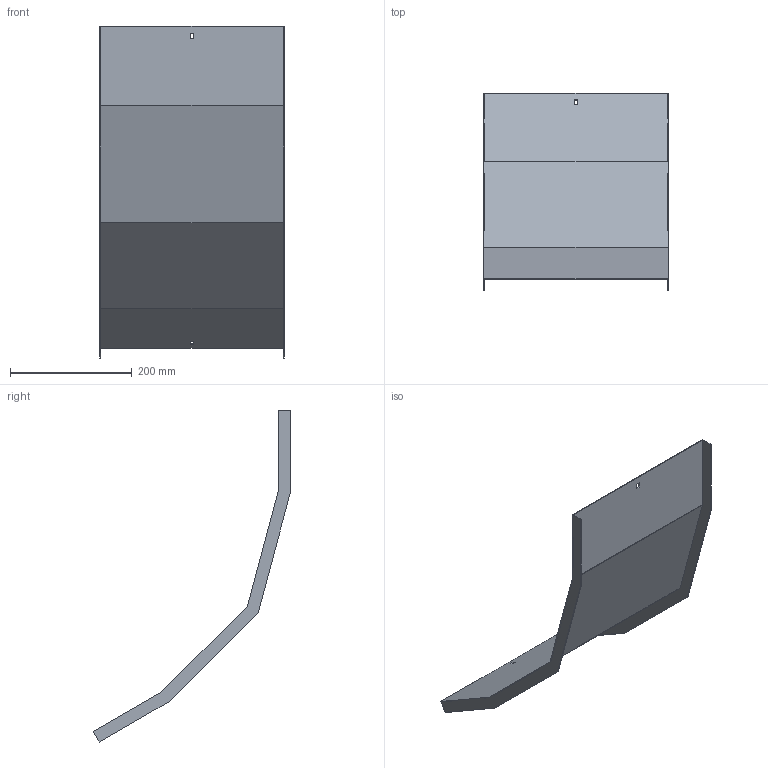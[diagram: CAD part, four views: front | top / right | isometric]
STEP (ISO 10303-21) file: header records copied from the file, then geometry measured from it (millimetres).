
FILE_DESCRIPTION (( 'STEP AP214' ), '1' );
FILE_NAME ('40N5R300_H150.step', '2025-02-21T14:29:04', ( '' ), ( '' ), 'SwSTEP 2.0', 'SolidWorks 2023', '' );
FILE_SCHEMA (( 'AUTOMOTIVE_DESIGN' ));
Length unit declared in the file: millimetre
Products named in the file (1): 40N5R300_H150
Bounding box: 303 x 324.8 x 545.25 mm (x, y, z)
Volume: 336400.6 mm3; surface area: 451682.5 mm2
Topology: 1 solids, 1 shells, 30 faces, 84 edges, 56 vertices
Faces by surface type: plane 30
Entity records: 979 total; most frequent: CARTESIAN_POINT 171, ORIENTED_EDGE 168, DIRECTION 146, EDGE_CURVE 84, LINE 84, VECTOR 84, VERTEX_POINT 56, EDGE_LOOP 34
